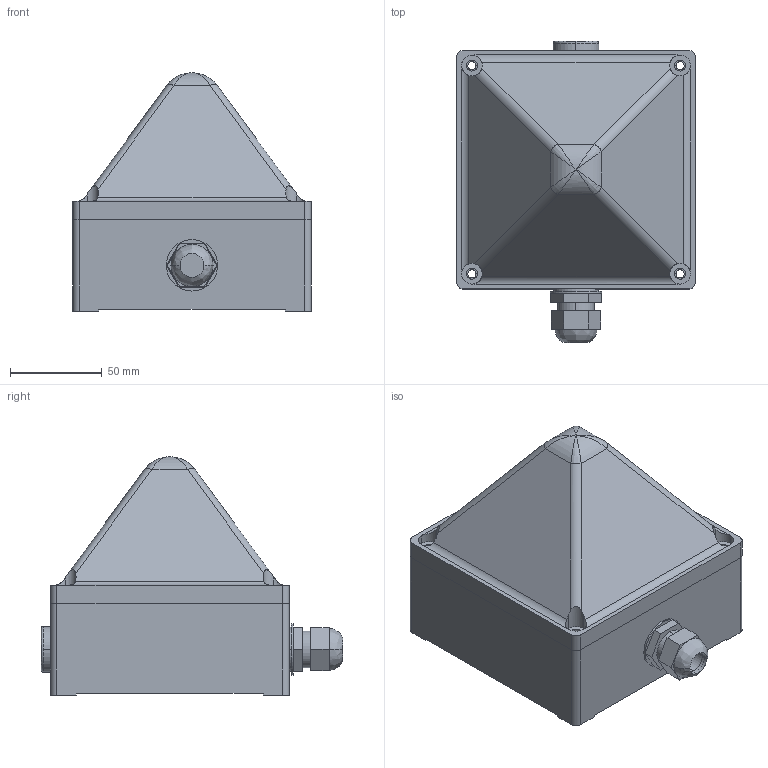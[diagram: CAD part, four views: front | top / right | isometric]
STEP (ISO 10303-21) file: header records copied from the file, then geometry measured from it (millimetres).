
FILE_DESCRIPTION (( 'STEP AP214' ), '1' );
FILE_NAME ('QUADRO F12-3G3D.STEP', '2008-08-29T07:18:42', ( 'Pfannenberg' ), ( 'Pfannenberg GmbH' ), 'SwSTEP 2.0', 'SolidWorks 2007', '' );
FILE_SCHEMA (( 'AUTOMOTIVE_DESIGN' ));
Length unit declared in the file: millimetre
Products named in the file (1): QUADRO F12-3G3D
Bounding box: 130.09 x 164.37 x 130 mm (x, y, z)
Volume: 1391716.8 mm3; surface area: 127423.7 mm2
Topology: 8 solids, 8 shells, 329 faces, 836 edges, 534 vertices
Faces by surface type: plane 170, cylinder 137, bspline 20, cone 2
Entity records: 12078 total; most frequent: CARTESIAN_POINT 3985, ORIENTED_EDGE 1664, DIRECTION 1663, EDGE_CURVE 832, AXIS2_PLACEMENT_3D 587, VERTEX_POINT 534, VECTOR 489, LINE 489
